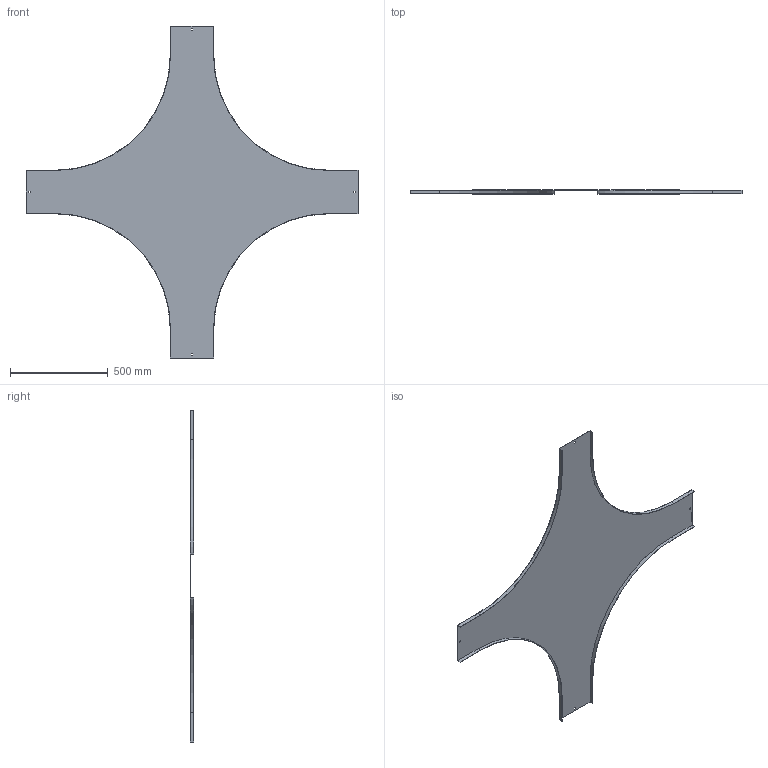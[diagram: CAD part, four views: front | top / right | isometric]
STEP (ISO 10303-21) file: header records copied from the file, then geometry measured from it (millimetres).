
FILE_DESCRIPTION (( 'STEP AP214' ), '1' );
FILE_NAME ('17N6P200.step', '2025-02-21T13:57:29', ( '' ), ( '' ), 'SwSTEP 2.0', 'SolidWorks 2023', '' );
FILE_SCHEMA (( 'AUTOMOTIVE_DESIGN' ));
Length unit declared in the file: millimetre
Products named in the file (1): 17N6P200
Bounding box: 1700 x 20 x 1700 mm (x, y, z)
Volume: 1644337.4 mm3; surface area: 2201542.4 mm2
Topology: 1 solids, 1 shells, 50 faces, 144 edges, 96 vertices
Faces by surface type: plane 42, cylinder 8
Entity records: 1663 total; most frequent: CARTESIAN_POINT 291, ORIENTED_EDGE 288, DIRECTION 262, EDGE_CURVE 144, VECTOR 128, LINE 128, VERTEX_POINT 96, AXIS2_PLACEMENT_3D 67
